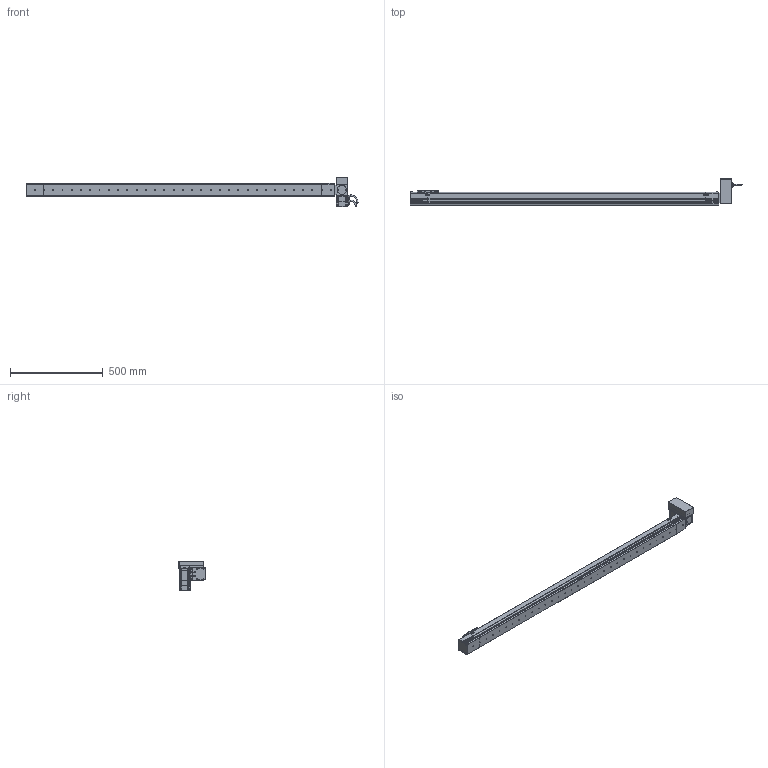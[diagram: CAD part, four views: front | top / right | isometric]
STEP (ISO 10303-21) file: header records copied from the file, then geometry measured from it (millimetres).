
FILE_DESCRIPTION (( 'STEP AP214' ), '1' );
FILE_NAME ('S07 CBN LT S1500.STEP', '2010-06-29T10:53:01', ( 'Conseil Régional Haute-Normandie' ), ( 'Conseil Régional Haute-Normandie' ), 'SwSTEP 2.0', 'SolidWorks 2010', '' );
FILE_SCHEMA (( 'AUTOMOTIVE_DESIGN' ));
Length unit declared in the file: millimetre
Products named in the file (31): vis M5 L8_Default; support chariot_Default; chariot_Default; Chariot S07_Default; vis M5 L15_Default; plaque de serrage Tail_Default; Plaque de bout Tail_Default; Couvercle Tail_Default; Corp LT_Default; Plaque de bout LT_Default; Head LT_Default; Rondelle de Serrage LT_Default; Cache Support Moteur LT_Default; Couvercle LT_Default; P1_Default; 60BLDC90A-640_Default; Support Moteur LT_Default; plaque de serrage LT_Default; P4_Default; P3 90A_Default; P2 90A_Default; Conecteur2 60BLDC_Default; Conecteur 60BLDC_Default; Axe 60BLDC_Default; Corp S07 S1500_Default; VisM3_Default; Corp Tail_Default; Tail S07 Tail_Default; Couvercle S07 S1500_Default; S07 CBN LT S1500
Assembly tree (71 placements, depth 4):
  S07 CBN LT S1500
    Corp S07 S1500_Default
      Corp S07 S1500_Default
      Couvercle S07 S1500_Default
    Tail S07 Tail_Default
      vis M5 L15_Default  x6
      plaque de serrage Tail_Default
      Corp Tail_Default
      Plaque de bout Tail_Default
      Couvercle Tail_Default
    Head LT_Default
      vis M5 L15_Default  x16
      Rondelle de Serrage LT_Default  x3
      plaque de serrage LT_Default
      Couvercle LT_Default
      Plaque de bout LT_Default
      Corp LT_Default
      Cache Support Moteur LT_Default
      60BLDC90A-640_Default
        VisM3_Default  x12
        Axe 60BLDC_Default
        P1_Default
        P3 90A_Default
        P4_Default
        P2 90A_Default
        Conecteur2 60BLDC_Default
        Conecteur 60BLDC_Default
      Support Moteur LT_Default
    Chariot S07_Default
      vis M5 L8_Default  x8
      chariot_Default
      support chariot_Default
Bounding box: 1793.2 x 141 x 162 mm (x, y, z)
Volume: 8431517.7 mm3; surface area: 972460.3 mm2
Topology: 108 solids, 108 shells, 3940 faces, 9686 edges, 6236 vertices
Faces by surface type: plane 2266, bspline 756, cylinder 707, torus 112, cone 95, sphere 4
Entity records: 154633 total; most frequent: CARTESIAN_POINT 79799, ORIENTED_EDGE 14892, DIRECTION 11219, EDGE_CURVE 7446, VERTEX_POINT 4921, LINE 4805, VECTOR 4805, EDGE_LOOP 3213
